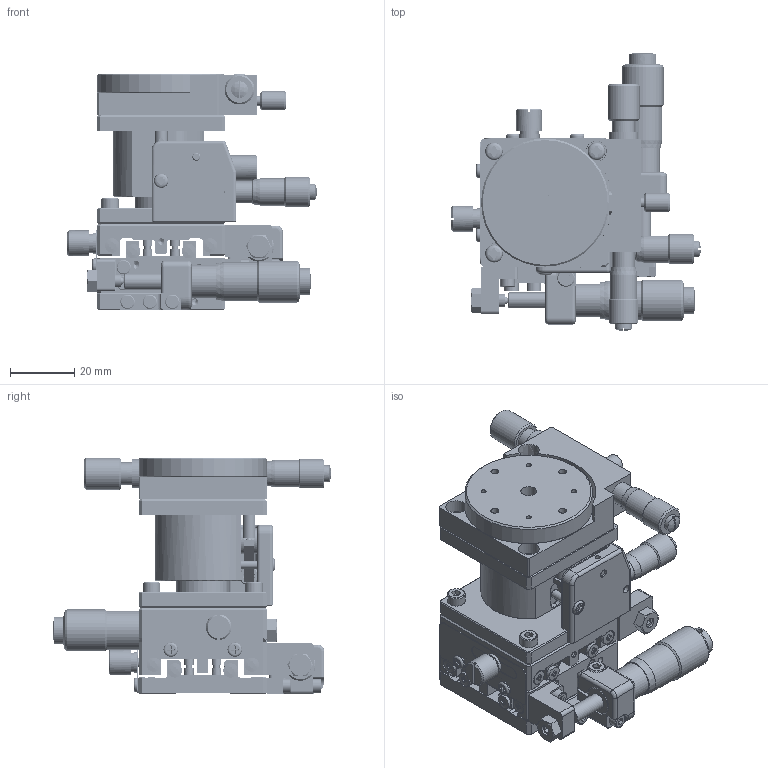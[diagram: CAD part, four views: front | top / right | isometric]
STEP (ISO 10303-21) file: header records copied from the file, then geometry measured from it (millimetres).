
FILE_DESCRIPTION((''),'2;1');
FILE_NAME('\\192.168.131.2\Tech_Server_Meka\Public1\3DDATA\2_OpticalHard\01_国内製品\1_Stags\TSD\40\TSD-409S\TSD-409S.stp','2009-12-08T13:43:00',('okegawa'),(''),'Autodesk Inventor 2008','Autodesk Inventor 2008','');
FILE_SCHEMA(('AUTOMOTIVE_DESIGN { 1 0 10303 214 1 1 1 1 }'));
Length unit declared in the file: millimetre
Products named in the file (6): TSD-409S-C1-S26; TSD-409S-C1-S18; TSD-409S-C1-S20; TSD-409S-C1-S24; TSD-409S-C1-S25; TSD-409S-C1-S14
Assembly tree (5 placements, depth 2):
  TSD-409S-C1-S26
    TSD-409S-C1-S18
    TSD-409S-C1-S20
    TSD-409S-C1-S24
    TSD-409S-C1-S25
    TSD-409S-C1-S14
Bounding box: 78.09 x 87.07 x 74 mm (x, y, z)
Volume: 104955.3 mm3; surface area: 69120.6 mm2
Topology: 5 solids, 106 shells, 2367 faces, 5532 edges, 3591 vertices
Faces by surface type: plane 1174, cylinder 526, bspline 416, cone 189, sphere 43, torus 19
Full cylindrical faces by diameter (mm): 1 x1, 1.2 x2, 1.5 x1, 1.567 x2, 1.6 x2, 1.7 x1, 1.8 x16, 2 x41, 2.2 x2, 2.3 x1, 2.4 x6, 2.6 x17, 3 x34, 3.1 x4, 3.242 x2, 3.3 x2, 3.5 x4, 3.8 x8, 4 x5, 4.3 x2, 4.5 x36, 4.6 x2, 5 x10, 5.1 x1, 5.2 x2, 5.5 x5, 5.8 x2, 6 x5, 6.4 x2, 6.5 x3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
Entity records: 69666 total; most frequent: CARTESIAN_POINT 20869, DIRECTION 9915, ORIENTED_EDGE 8832, EDGE_CURVE 4416, AXIS2_PLACEMENT_3D 3881, EDGE_LOOP 3594, VERTEX_POINT 3245, FACE_OUTER_BOUND 2367
